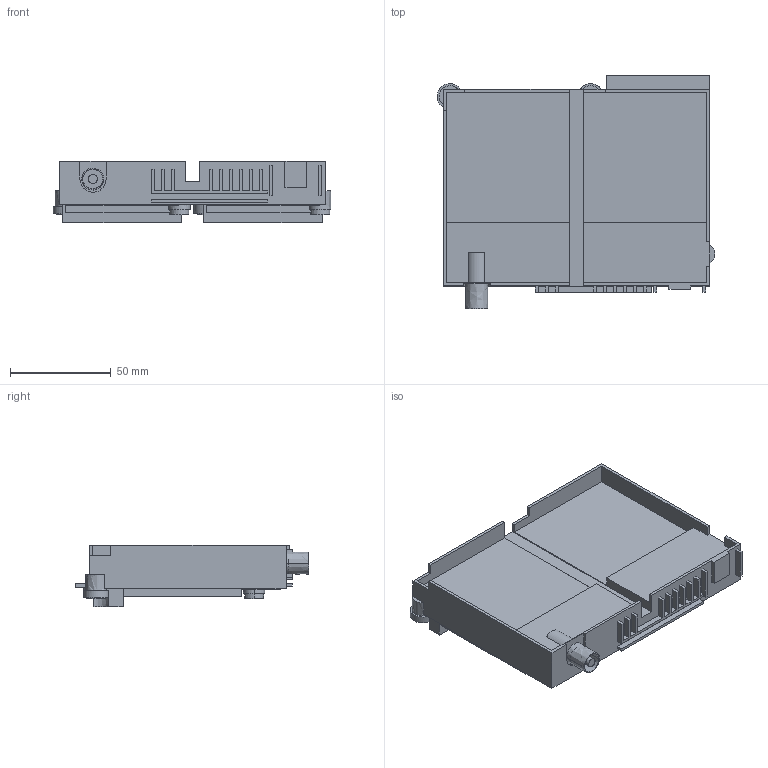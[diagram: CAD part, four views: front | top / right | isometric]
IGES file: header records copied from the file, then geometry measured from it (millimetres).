
Start section:  PTC IGES file: gt15_j71br13.igs
Global section: file name: gt15_j71br13.igs; native system: Pro/ENGINEER by Parametric Technology Corporation; preprocessor: 2006510; author: QR87550; organization: Unknown; date: 20100205.104637; units: millimetre
Bounding box: 138.1 x 116.03 x 30.6 mm (x, y, z)
Volume: 226221 mm3; surface area: 47177.1 mm2
Topology: 1 solids, 1 shells, 217 faces, 596 edges, 396 vertices
Faces by surface type: bspline 217
